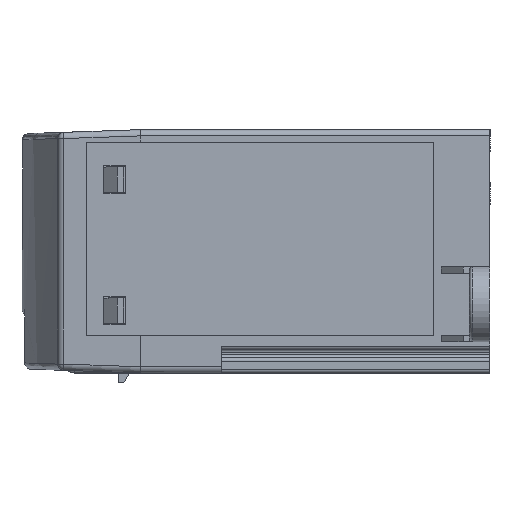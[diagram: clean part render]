
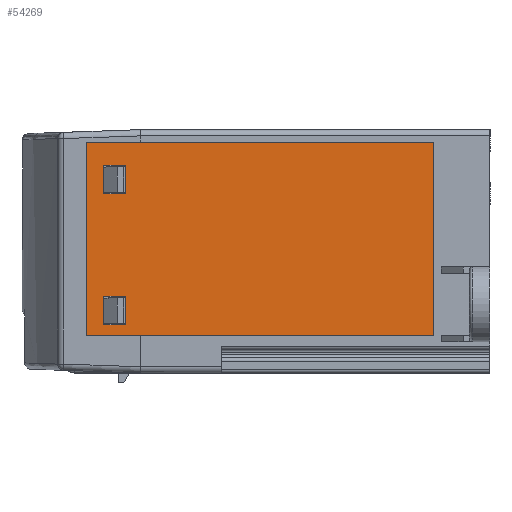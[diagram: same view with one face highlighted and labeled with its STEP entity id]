
A CAD part, left-side view. The second image highlights one B-rep face of the part: STEP entity #54269.
In plain terms, the highlighted planar face has unit normal (-1, 0, 0).
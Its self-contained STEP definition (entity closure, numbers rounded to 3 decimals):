
#20436=DIRECTION('',(0.,1.,0.));
#20437=VECTOR('',#20436,55.591);
#20438=CARTESIAN_POINT('',(-45.419,-16.006,
0.811));
#20439=LINE('',#20438,#20437);
#20440=DIRECTION('',(0.,0.,-1.));
#20441=VECTOR('',#20440,31.);
#20442=CARTESIAN_POINT('',(-45.419,39.585,
31.811));
#20443=LINE('',#20442,#20441);
#20444=DIRECTION('',(0.,-1.,0.));
#20445=VECTOR('',#20444,55.591);
#20446=CARTESIAN_POINT('',(-45.419,39.585,
31.811));
#20447=LINE('',#20446,#20445);
#20448=DIRECTION('',(0.,0.,-1.));
#20449=VECTOR('',#20448,4.6);
#20450=CARTESIAN_POINT('',(-45.419,33.394,
7.111));
#20451=LINE('',#20450,#20449);
#20452=DIRECTION('',(0.,-1.,0.));
#20453=VECTOR('',#20452,3.5);
#20454=CARTESIAN_POINT('',(-45.419,36.894,
7.111));
#20455=LINE('',#20454,#20453);
#20456=DIRECTION('',(0.,0.,1.));
#20457=VECTOR('',#20456,4.6);
#20458=CARTESIAN_POINT('',(-45.419,36.894,
2.511));
#20459=LINE('',#20458,#20457);
#20460=DIRECTION('',(0.,1.,0.));
#20461=VECTOR('',#20460,3.5);
#20462=CARTESIAN_POINT('',(-45.419,33.394,
2.511));
#20463=LINE('',#20462,#20461);
#20464=DIRECTION('',(0.,0.,1.));
#20465=VECTOR('',#20464,4.6);
#20466=CARTESIAN_POINT('',(-45.419,36.894,
23.511));
#20467=LINE('',#20466,#20465);
#20468=DIRECTION('',(0.,1.,0.));
#20469=VECTOR('',#20468,3.5);
#20470=CARTESIAN_POINT('',(-45.419,33.394,
23.511));
#20471=LINE('',#20470,#20469);
#20472=DIRECTION('',(0.,0.,-1.));
#20473=VECTOR('',#20472,4.6);
#20474=CARTESIAN_POINT('',(-45.419,33.394,
28.111));
#20475=LINE('',#20474,#20473);
#20476=DIRECTION('',(0.,-1.,0.));
#20477=VECTOR('',#20476,3.5);
#20478=CARTESIAN_POINT('',(-45.419,36.894,
28.111));
#20479=LINE('',#20478,#20477);
#20488=DIRECTION('',(0.,0.,-1.));
#20489=VECTOR('',#20488,31.);
#20490=CARTESIAN_POINT('',(-45.419,-16.006,
31.811));
#20491=LINE('',#20490,#20489);
#26584=CARTESIAN_POINT('',(-45.419,-16.006,
31.811));
#26586=VERTEX_POINT('',#26584);
#29033=CARTESIAN_POINT('',(-45.419,-16.006,
0.811));
#29035=VERTEX_POINT('',#29033);
#30690=CARTESIAN_POINT('',(-45.419,36.894,
28.111));
#30692=VERTEX_POINT('',#30690);
#30980=CARTESIAN_POINT('',(-45.419,33.394,
28.111));
#30982=VERTEX_POINT('',#30980);
#31091=CARTESIAN_POINT('',(-45.419,36.894,
2.511));
#31092=CARTESIAN_POINT('',(-45.419,36.894,
7.111));
#31093=VERTEX_POINT('',#31091);
#31094=VERTEX_POINT('',#31092);
#31310=CARTESIAN_POINT('',(-45.419,33.394,
23.511));
#31311=VERTEX_POINT('',#31310);
#31703=CARTESIAN_POINT('',(-45.419,39.585,
31.811));
#31704=CARTESIAN_POINT('',(-45.419,39.585,
0.811));
#31705=VERTEX_POINT('',#31703);
#31706=VERTEX_POINT('',#31704);
#31810=CARTESIAN_POINT('',(-45.419,36.894,
23.511));
#31811=VERTEX_POINT('',#31810);
#31843=CARTESIAN_POINT('',(-45.419,33.394,
7.111));
#31844=VERTEX_POINT('',#31843);
#31989=CARTESIAN_POINT('',(-45.419,33.394,
2.511));
#31990=VERTEX_POINT('',#31989);
#54236=CARTESIAN_POINT('',(-45.419,30.994,
31.811));
#54237=DIRECTION('',(-1.,0.,0.));
#54238=DIRECTION('',(0.,0.,1.));
#54239=AXIS2_PLACEMENT_3D('',#54236,#54237,#54238);
#54240=PLANE('',#54239);
#54242=ORIENTED_EDGE('',*,*,#54241,.T.);
#54243=ORIENTED_EDGE('',*,*,#39093,.F.);
#54244=ORIENTED_EDGE('',*,*,#54227,.T.);
#54246=ORIENTED_EDGE('',*,*,#54245,.T.);
#54247=EDGE_LOOP('',(#54242,#54243,#54244,#54246));
#54248=FACE_OUTER_BOUND('',#54247,.F.);
#54250=ORIENTED_EDGE('',*,*,#54249,.F.);
#54252=ORIENTED_EDGE('',*,*,#54251,.F.);
#54254=ORIENTED_EDGE('',*,*,#54253,.F.);
#54256=ORIENTED_EDGE('',*,*,#54255,.F.);
#54257=EDGE_LOOP('',(#54250,#54252,#54254,#54256));
#54258=FACE_BOUND('',#54257,.F.);
#54260=ORIENTED_EDGE('',*,*,#54259,.F.);
#54262=ORIENTED_EDGE('',*,*,#54261,.F.);
#54264=ORIENTED_EDGE('',*,*,#54263,.F.);
#54266=ORIENTED_EDGE('',*,*,#54265,.F.);
#54267=EDGE_LOOP('',(#54260,#54262,#54264,#54266));
#54268=FACE_BOUND('',#54267,.F.);
#54269=ADVANCED_FACE('',(#54248,#54258,#54268),#54240,.T.);
#39093=EDGE_CURVE('',#31705,#31706,#20443,.T.);
#54227=EDGE_CURVE('',#31705,#26586,#20447,.T.);
#54241=EDGE_CURVE('',#29035,#31706,#20439,.T.);
#54245=EDGE_CURVE('',#26586,#29035,#20491,.T.);
#54249=EDGE_CURVE('',#31844,#31990,#20451,.T.);
#54251=EDGE_CURVE('',#31094,#31844,#20455,.T.);
#54253=EDGE_CURVE('',#31093,#31094,#20459,.T.);
#54255=EDGE_CURVE('',#31990,#31093,#20463,.T.);
#54259=EDGE_CURVE('',#31811,#30692,#20467,.T.);
#54261=EDGE_CURVE('',#31311,#31811,#20471,.T.);
#54263=EDGE_CURVE('',#30982,#31311,#20475,.T.);
#54265=EDGE_CURVE('',#30692,#30982,#20479,.T.);
